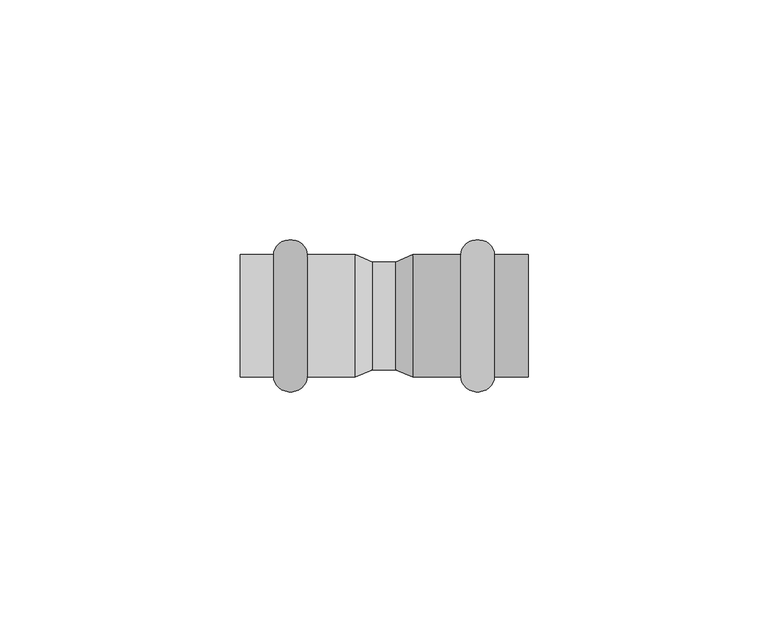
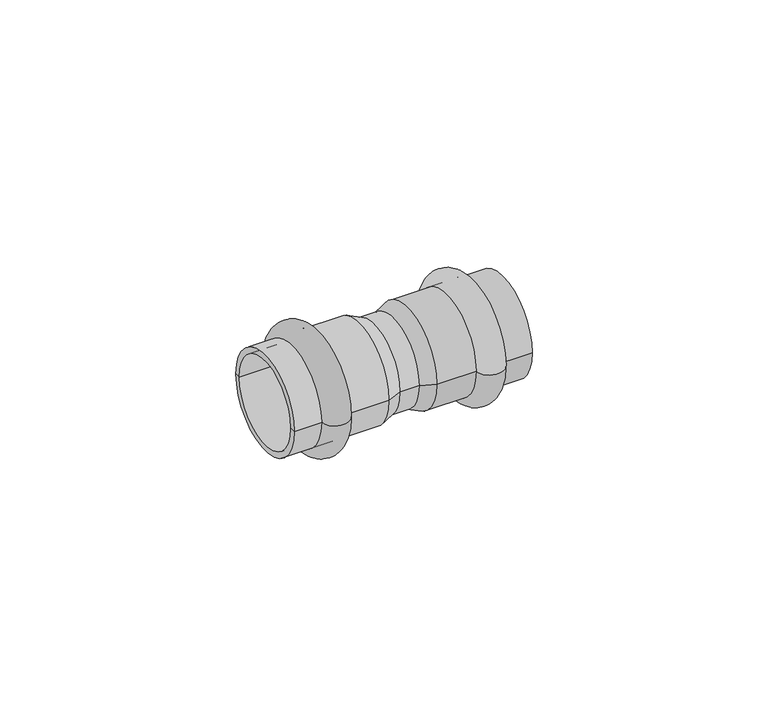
"""IFC4 building model written with IfcOpenShell, lengths in millimetres: pipe fitting geometry, РЕХАУ_Пресс Муфта прямая : Муфта прямая."""

from ifc_helpers import new_model, si_unit, point, frame, origin, origin_2d, place, context, project, spatial, polyline, circle_curve, ellipse_curve, trimmed, segment, composite_curve, outline, extrude, source, transform, mapped, element, save
from ifc_brep_helpers import plane_surface, cylinder_surface, revolved_surface, advanced_brep


def pipe_fitting_db7363c3(model_context):
    return source(origin(), model_context, "Body", "SolidModel", [
        advanced_brep(
        [(23.0, 12.75, 0.0), (23.0, -12.75, 0.0), (16.0, -12.75, 0.0), (16.0, 12.75, 0.0)],
        [
            (0, 1, circle_curve(frame((23.0, 0.0, 0.0), z_axis=(1.0, 0.0, 0.0), x_axis=(0.0, -1.0, 0.0)), 12.75)),
            (1, 2),
            (2, 3, circle_curve(frame((16.0, 0.0, 0.0), z_axis=(-1.0, 0.0, 0.0), x_axis=(0.0, -1.0, 0.0)), 12.75)),
            (3, 0),
            (1, 0, circle_curve(frame((23.0, 0.0, 0.0), z_axis=(1.0, 0.0, 0.0), x_axis=(0.0, -1.0, 0.0)), 12.75)),
            (3, 2, circle_curve(frame((16.0, 0.0, 0.0), z_axis=(-1.0, 0.0, 0.0), x_axis=(0.0, -1.0, 0.0)), 12.75)),
            (2, 1, ellipse_curve(frame((19.5, -12.75, 0.0), z_axis=(0.0, 0.0, 1.0), x_axis=(1.0, 0.0, 0.0)), 3.5, 3.1)),
            (0, 3, ellipse_curve(frame((19.5, 12.75, 0.0), z_axis=(0.0, 0.0, 1.0), x_axis=(1.0, 0.0, 0.0)), 3.5, 3.1)),
        ],
        [
            revolved_surface(polyline([(16.0, -12.75, 0.0), (23.0, -12.75, 0.0)]), (3.0, 0.0, 0.0), (-1.0, 0.0, 0.0)),
            revolved_surface(trimmed(ellipse_curve(frame((19.5, -12.75, 0.0), z_axis=(0.0, 0.0, -1.0), x_axis=(1.0, 0.0, 0.0)), 3.5, 3.1), [point((23.0, -12.75, 0.0))], [point((16.0, -12.75, 0.0))], True, "CARTESIAN"), (3.0, 0.0, 0.0), (-1.0, 0.0, 0.0)),
        ],
        [
            (0, [[1, 2, 3, 4]]),
            (0, [[5, -4, 6, -2]]),
            (1, [[-3, 7, -1, 8]]),
            (1, [[-6, -8, -5, -7]]),
        ],
    ),
        advanced_brep(
        [(2.4662215, 11.25, 0.0), (2.4662215, -11.25, 0.0), (6.0, -12.75, 0.0), (6.0, 12.75, 0.0), (30.0, 11.25, 0.0), (30.0, -11.25, 0.0), (30.0, 12.75, 0.0), (30.0, -12.75, 0.0)],
        [
            (0, 1, circle_curve(frame((2.4662215, 0.0, 0.0), z_axis=(1.0, 0.0, 0.0), x_axis=(0.0, -1.0, 0.0)), 11.25)),
            (1, 2),
            (2, 3, circle_curve(frame((6.0, 0.0, 0.0), z_axis=(-1.0, 0.0, 0.0), x_axis=(0.0, -1.0, 0.0)), 12.75)),
            (3, 0),
            (1, 0, circle_curve(frame((2.4662215, 0.0, 0.0), z_axis=(1.0, 0.0, 0.0), x_axis=(0.0, -1.0, 0.0)), 11.25)),
            (3, 2, circle_curve(frame((6.0, 0.0, 0.0), z_axis=(-1.0, 0.0, 0.0), x_axis=(0.0, -1.0, 0.0)), 12.75)),
            (4, 5, circle_curve(frame((30.0, 0.0, 0.0), z_axis=(1.0, 0.0, 0.0), x_axis=(0.0, -1.0, 0.0)), 11.25)),
            (5, 1),
            (0, 4),
            (5, 4, circle_curve(frame((30.0, 0.0, 0.0), z_axis=(1.0, 0.0, 0.0), x_axis=(0.0, -1.0, 0.0)), 11.25)),
            (6, 7, circle_curve(frame((30.0, 0.0, 0.0), z_axis=(1.0, 0.0, 0.0), x_axis=(0.0, -1.0, 0.0)), 12.75)),
            (7, 5),
            (4, 6),
            (7, 6, circle_curve(frame((30.0, 0.0, 0.0), z_axis=(1.0, 0.0, 0.0), x_axis=(0.0, -1.0, 0.0)), 12.75)),
            (2, 7),
            (6, 3),
        ],
        [
            revolved_surface(polyline([(6.0, -12.75, 0.0), (2.4662215, -11.25, 0.0)]), (3.0, 0.0, 0.0), (-1.0, 0.0, 0.0)),
            revolved_surface(polyline([(2.4662215, -11.25, 0.0), (30.0, -11.25, 0.0)]), (3.0, 0.0, 0.0), (-1.0, 0.0, 0.0)),
            plane_surface(frame((30.0, 0.0, 0.0), z_axis=(1.0, 0.0, 0.0), x_axis=(0.0, -1.0, 0.0))),
            cylinder_surface(frame((3.0, 0.0, 0.0), z_axis=(-1.0, 0.0, 0.0), x_axis=(0.0, -1.0, 0.0)), 12.75),
        ],
        [
            (0, [[1, 2, 3, 4]]),
            (0, [[5, -4, 6, -2]]),
            (1, [[7, 8, -1, 9]]),
            (1, [[10, -9, -5, -8]]),
            (2, [[11, 12, -7, 13]]),
            (2, [[14, -13, -10, -12]]),
            (3, [[-3, 15, -11, 16]]),
            (3, [[-6, -16, -14, -15]]),
        ],
    ),
        advanced_brep(
        [(-23.0, 12.75, 0.0), (-23.0, -12.75, 0.0), (-16.0, -12.75, 0.0), (-16.0, 12.75, 0.0)],
        [
            (0, 1, circle_curve(frame((-23.0, 0.0, 0.0), z_axis=(-1.0, 0.0, 0.0), x_axis=(0.0, -1.0, 0.0)), 12.75)),
            (1, 2),
            (2, 3, circle_curve(frame((-16.0, 0.0, 0.0), z_axis=(1.0, 0.0, 0.0), x_axis=(0.0, -1.0, 0.0)), 12.75)),
            (3, 0),
            (1, 0, circle_curve(frame((-23.0, 0.0, 0.0), z_axis=(-1.0, 0.0, 0.0), x_axis=(0.0, -1.0, 0.0)), 12.75)),
            (3, 2, circle_curve(frame((-16.0, 0.0, 0.0), z_axis=(1.0, 0.0, 0.0), x_axis=(0.0, -1.0, 0.0)), 12.75)),
            (2, 1, ellipse_curve(frame((-19.5, -12.75, 0.0), z_axis=(0.0, 0.0, -1.0), x_axis=(-1.0, 0.0, 0.0)), 3.5, 3.1)),
            (0, 3, ellipse_curve(frame((-19.5, 12.75, 0.0), z_axis=(0.0, 0.0, -1.0), x_axis=(-1.0, 0.0, 0.0)), 3.5, 3.1)),
        ],
        [
            revolved_surface(polyline([(-16.0, -12.75, 0.0), (-23.0, -12.75, 0.0)]), (-3.0, 0.0, 0.0), (1.0, 0.0, 0.0)),
            revolved_surface(trimmed(ellipse_curve(frame((-19.5, -12.75, 0.0), z_axis=(0.0, 0.0, 1.0), x_axis=(-1.0, 0.0, 0.0)), 3.5, 3.1), [point((-23.0, -12.75, 0.0))], [point((-16.0, -12.75, 0.0))], True, "CARTESIAN"), (-3.0, 0.0, 0.0), (1.0, 0.0, 0.0)),
        ],
        [
            (0, [[1, 2, 3, 4]]),
            (0, [[5, -4, 6, -2]]),
            (1, [[-3, 7, -1, 8]]),
            (1, [[-6, -8, -5, -7]]),
        ],
    ),
        advanced_brep(
        [(-2.4662215, 11.25, 0.0), (-2.4662215, -11.25, 0.0), (-6.0, -12.75, 0.0), (-6.0, 12.75, 0.0), (-30.0, 11.25, 0.0), (-30.0, -11.25, 0.0), (-30.0, 12.75, 0.0), (-30.0, -12.75, 0.0)],
        [
            (0, 1, circle_curve(frame((-2.4662215, 0.0, 0.0), z_axis=(-1.0, 0.0, 0.0), x_axis=(0.0, -1.0, 0.0)), 11.25)),
            (1, 2),
            (2, 3, circle_curve(frame((-6.0, 0.0, 0.0), z_axis=(1.0, 0.0, 0.0), x_axis=(0.0, -1.0, 0.0)), 12.75)),
            (3, 0),
            (1, 0, circle_curve(frame((-2.4662215, 0.0, 0.0), z_axis=(-1.0, 0.0, 0.0), x_axis=(0.0, -1.0, 0.0)), 11.25)),
            (3, 2, circle_curve(frame((-6.0, 0.0, 0.0), z_axis=(1.0, 0.0, 0.0), x_axis=(0.0, -1.0, 0.0)), 12.75)),
            (4, 5, circle_curve(frame((-30.0, 0.0, 0.0), z_axis=(-1.0, 0.0, 0.0), x_axis=(0.0, -1.0, 0.0)), 11.25)),
            (5, 1),
            (0, 4),
            (5, 4, circle_curve(frame((-30.0, 0.0, 0.0), z_axis=(-1.0, 0.0, 0.0), x_axis=(0.0, -1.0, 0.0)), 11.25)),
            (6, 7, circle_curve(frame((-30.0, 0.0, 0.0), z_axis=(-1.0, 0.0, 0.0), x_axis=(0.0, -1.0, 0.0)), 12.75)),
            (7, 5),
            (4, 6),
            (7, 6, circle_curve(frame((-30.0, 0.0, 0.0), z_axis=(-1.0, 0.0, 0.0), x_axis=(0.0, -1.0, 0.0)), 12.75)),
            (2, 7),
            (6, 3),
        ],
        [
            revolved_surface(polyline([(-6.0, -12.75, 0.0), (-2.4662215, -11.25, 0.0)]), (-3.0, 0.0, 0.0), (1.0, 0.0, 0.0)),
            revolved_surface(polyline([(-2.4662215, -11.25, 0.0), (-30.0, -11.25, 0.0)]), (-3.0, 0.0, 0.0), (1.0, 0.0, 0.0)),
            plane_surface(frame((-30.0, 0.0, 0.0), z_axis=(-1.0, 0.0, 0.0), x_axis=(0.0, -1.0, 0.0))),
            cylinder_surface(frame((-3.0, 0.0, 0.0), z_axis=(1.0, 0.0, 0.0), x_axis=(0.0, -1.0, 0.0)), 12.75),
        ],
        [
            (0, [[1, 2, 3, 4]]),
            (0, [[5, -4, 6, -2]]),
            (1, [[7, 8, -1, 9]]),
            (1, [[10, -9, -5, -8]]),
            (2, [[11, 12, -7, 13]]),
            (2, [[14, -13, -10, -12]]),
            (3, [[-3, 15, -11, 16]]),
            (3, [[-6, -16, -14, -15]]),
        ],
    ),
        extrude(outline(composite_curve([segment(trimmed(circle_curve(origin_2d(), 11.25), [point((-11.25, 0.0))], [point((11.25, 0.0))], False, "CARTESIAN"), True, "CONTINUOUS"), segment(trimmed(circle_curve(origin_2d(), 11.25), [point((11.25, 0.0))], [point((-11.25, 0.0))], False, "CARTESIAN"), True, "CONTINUOUS")], self_intersect=False)), frame((-6.0, 0.0, 0.0), z_axis=(1.0, 0.0, 0.0), x_axis=(0.0, 1.0, 0.0)), (0.0, 0.0, 1.0), 12.0),
    ])


if __name__ == "__main__":
    model = new_model("IFC4")
    model_context = context("Model", 3, world=origin())
    ifc_project = project(units=[si_unit("LENGTHUNIT", "METRE", prefix="MILLI")], contexts=[model_context])
    site = spatial("IfcSite", under=ifc_project)
    building = spatial("IfcBuilding", under=site)
    placement = place(None, origin())
    pipe_fitting_shape = pipe_fitting_db7363c3(model_context)
    element("IfcPipeFitting", 1, ObjectType="РЕХАУ_Пресс Муфта прямая : Муфта прямая", at=placement, inside=building, context=model_context, shape_type="MappedRepresentation", body=[
        mapped(pipe_fitting_shape, transform((0.0, 0.0, 0.0), x_axis=(1.0, 0.0, 0.0), y_axis=(0.0, 1.0, 0.0), z_axis=(0.0, 0.0, 1.0))),
    ])
    save(model, "model.ifc")
